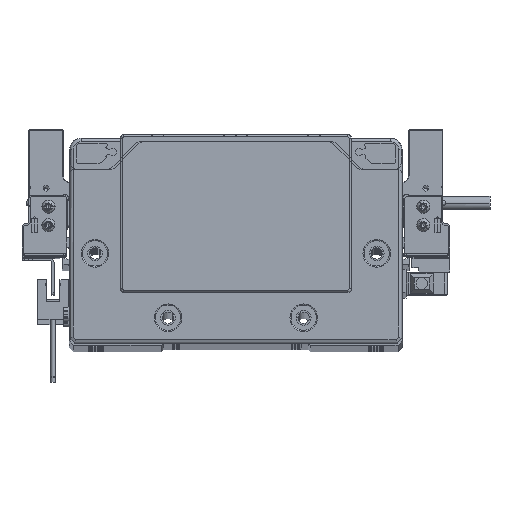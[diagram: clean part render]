
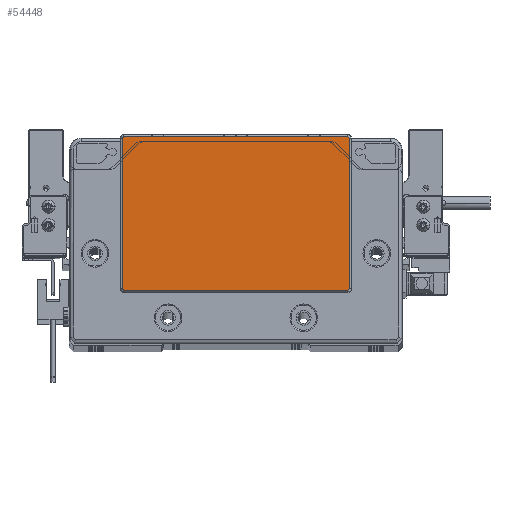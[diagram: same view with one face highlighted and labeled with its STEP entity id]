
A CAD part, top view. The second image highlights one B-rep face of the part: STEP entity #54448.
In plain terms, the highlighted planar face has unit normal (0, 0, 1) as drawn and (0, 0, -1) by its records, which use the part's own axes.
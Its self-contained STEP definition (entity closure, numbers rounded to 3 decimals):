
#313 = AXIS2_PLACEMENT_3D ( 'NONE', #77805, #53200, #28150 ) ;
#405 = CARTESIAN_POINT ( 'NONE',  ( -48.75, -22.3, -2. ) ) ;
#1963 = AXIS2_PLACEMENT_3D ( 'NONE', #36000, #18967, #76084 ) ;
#1990 = CARTESIAN_POINT ( 'NONE',  ( 48.75, 44.3, -2. ) ) ;
#2200 = VERTEX_POINT ( 'NONE', #45525 ) ;
#4386 = ORIENTED_EDGE ( 'NONE', *, *, #80642, .T. ) ;
#4711 = EDGE_LOOP ( 'NONE', ( #52440, #102393, #4386, #6019, #28935, #74405, #73743, #37124 ) ) ;
#6019 = ORIENTED_EDGE ( 'NONE', *, *, #6273, .T. ) ;
#6273 = EDGE_CURVE ( 'NONE', #83374, #22624, #81481, .T. ) ;
#7907 = LINE ( 'NONE', #405, #17087 ) ;
#8681 = DIRECTION ( 'NONE',  ( -1., 0., 0. ) ) ;
#10222 = VERTEX_POINT ( 'NONE', #68506 ) ;
#12740 = LINE ( 'NONE', #77846, #19318 ) ;
#14234 = AXIS2_PLACEMENT_3D ( 'NONE', #82808, #58224, #8681 ) ;
#14956 = CIRCLE ( 'NONE', #77966, 0.5 ) ;
#17087 = VECTOR ( 'NONE', #23330, 1000. ) ;
#17375 = FACE_OUTER_BOUND ( 'NONE', #4711, .T. ) ;
#18003 = LINE ( 'NONE', #1990, #74181 ) ;
#18967 = DIRECTION ( 'NONE',  ( 0., 0., -1. ) ) ;
#19318 = VECTOR ( 'NONE', #60198, 1000. ) ;
#19991 = DIRECTION ( 'NONE',  ( -1., 0., 0. ) ) ;
#21542 = VERTEX_POINT ( 'NONE', #41578 ) ;
#21841 = AXIS2_PLACEMENT_3D ( 'NONE', #60517, #52525, #19991 ) ;
#22098 = VECTOR ( 'NONE', #65610, 1000. ) ;
#22624 = VERTEX_POINT ( 'NONE', #96192 ) ;
#23330 = DIRECTION ( 'NONE',  ( -1., 0., 0. ) ) ;
#24378 = CARTESIAN_POINT ( 'NONE',  ( -48.75, -22.3, -2. ) ) ;
#26198 = CARTESIAN_POINT ( 'NONE',  ( 49.25, -21.8, -2. ) ) ;
#26512 = DIRECTION ( 'NONE',  ( 1., 0., 0. ) ) ;
#27477 = PLANE ( 'NONE',  #1963 ) ;
#28150 = DIRECTION ( 'NONE',  ( -1., 0., 0. ) ) ;
#28935 = ORIENTED_EDGE ( 'NONE', *, *, #80329, .T. ) ;
#31086 = CARTESIAN_POINT ( 'NONE',  ( 49.25, 43.8, -2. ) ) ;
#31463 = CARTESIAN_POINT ( 'NONE',  ( -49.25, 43.8, -2. ) ) ;
#31991 = VERTEX_POINT ( 'NONE', #31086 ) ;
#36000 = CARTESIAN_POINT ( 'NONE',  ( 0., 0., -2. ) ) ;
#37124 = ORIENTED_EDGE ( 'NONE', *, *, #47929, .T. ) ;
#41578 = CARTESIAN_POINT ( 'NONE',  ( 48.75, -22.3, -2. ) ) ;
#45525 = CARTESIAN_POINT ( 'NONE',  ( -49.25, 43.8, -2. ) ) ;
#47929 = EDGE_CURVE ( 'NONE', #10222, #31991, #14956, .T. ) ;
#47996 = LINE ( 'NONE', #31463, #22098 ) ;
#48269 = CARTESIAN_POINT ( 'NONE',  ( -48.75, 44.3, -2. ) ) ;
#52440 = ORIENTED_EDGE ( 'NONE', *, *, #97478, .T. ) ;
#52525 = DIRECTION ( 'NONE',  ( 0., 0., -1. ) ) ;
#53200 = DIRECTION ( 'NONE',  ( 0., 0., -1. ) ) ;
#54448 = ADVANCED_FACE ( 'NONE', ( #17375 ), #27477, .T. ) ;
#56701 = DIRECTION ( 'NONE',  ( 0., 0., -1. ) ) ;
#57768 = CARTESIAN_POINT ( 'NONE',  ( 48.75, 43.8, -2. ) ) ;
#58224 = DIRECTION ( 'NONE',  ( 0., 0., -1. ) ) ;
#60065 = VERTEX_POINT ( 'NONE', #48269 ) ;
#60198 = DIRECTION ( 'NONE',  ( 0., -1., 0. ) ) ;
#60517 = CARTESIAN_POINT ( 'NONE',  ( -48.75, -21.8, -2. ) ) ;
#63344 = CIRCLE ( 'NONE', #313, 0.5 ) ;
#65610 = DIRECTION ( 'NONE',  ( 0., 1., 0. ) ) ;
#66850 = DIRECTION ( 'NONE',  ( -1., 0., 0. ) ) ;
#68506 = CARTESIAN_POINT ( 'NONE',  ( 48.75, 44.3, -2. ) ) ;
#73743 = ORIENTED_EDGE ( 'NONE', *, *, #89319, .T. ) ;
#74181 = VECTOR ( 'NONE', #26512, 1000. ) ;
#74405 = ORIENTED_EDGE ( 'NONE', *, *, #86201, .T. ) ;
#76084 = DIRECTION ( 'NONE',  ( -1., 0., 0. ) ) ;
#77805 = CARTESIAN_POINT ( 'NONE',  ( 48.75, -21.8, -2. ) ) ;
#77846 = CARTESIAN_POINT ( 'NONE',  ( 49.25, -21.8, -2. ) ) ;
#77966 = AXIS2_PLACEMENT_3D ( 'NONE', #57768, #56701, #66850 ) ;
#80139 = VERTEX_POINT ( 'NONE', #26198 ) ;
#80329 = EDGE_CURVE ( 'NONE', #22624, #2200, #47996, .T. ) ;
#80642 = EDGE_CURVE ( 'NONE', #21542, #83374, #7907, .T. ) ;
#81481 = CIRCLE ( 'NONE', #21841, 0.5 ) ;
#82808 = CARTESIAN_POINT ( 'NONE',  ( -48.75, 43.8, -2. ) ) ;
#83374 = VERTEX_POINT ( 'NONE', #24378 ) ;
#86201 = EDGE_CURVE ( 'NONE', #2200, #60065, #102829, .T. ) ;
#89319 = EDGE_CURVE ( 'NONE', #60065, #10222, #18003, .T. ) ;
#94491 = EDGE_CURVE ( 'NONE', #80139, #21542, #63344, .T. ) ;
#96192 = CARTESIAN_POINT ( 'NONE',  ( -49.25, -21.8, -2. ) ) ;
#97478 = EDGE_CURVE ( 'NONE', #31991, #80139, #12740, .T. ) ;
#102393 = ORIENTED_EDGE ( 'NONE', *, *, #94491, .T. ) ;
#102829 = CIRCLE ( 'NONE', #14234, 0.5 ) ;
